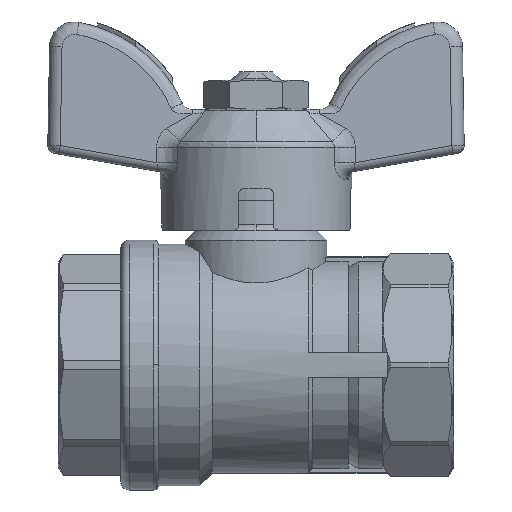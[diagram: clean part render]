
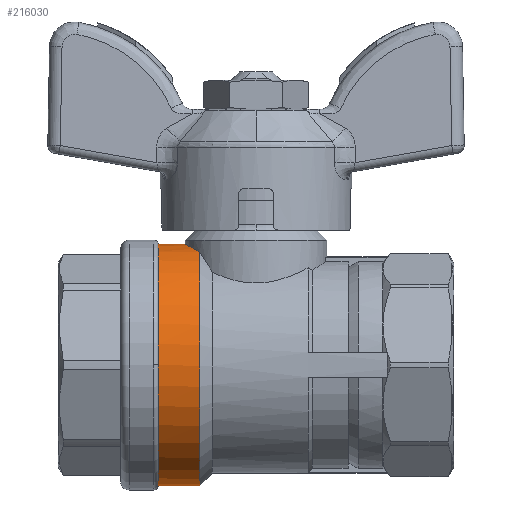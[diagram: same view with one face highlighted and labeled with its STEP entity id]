
A CAD part, top view. The second image highlights one B-rep face of the part: STEP entity #216030.
In plain terms, the highlighted cylindrical face has radius 14.5 mm (diameter 29 mm), a partial arc.
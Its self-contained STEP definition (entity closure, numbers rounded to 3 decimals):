
#6660=CARTESIAN_POINT('',(11.75,0.,-14.5));
#6670=VERTEX_POINT('',#6660);
#6700=CARTESIAN_POINT('',(11.75,0.,0.));
#6710=DIRECTION('',(-1.,0.,0.));
#6720=DIRECTION('',(0.,0.,1.));
#6730=AXIS2_PLACEMENT_3D('',#6700,#6710,#6720);
#6740=CIRCLE('',#6730,14.5);
#6750=CARTESIAN_POINT('',(11.75,-14.5,
0.));
#6760=VERTEX_POINT('',#6750);
#6770=EDGE_CURVE('',#6670,#6760,#6740,.T.);
#14440=CARTESIAN_POINT('',(0.,7.499,0.));
#14450=DIRECTION('',(0.,-1.,0.));
#14460=DIRECTION('',(-1.,0.,0.));
#14470=AXIS2_PLACEMENT_3D('',#14440,#14450,#14460);
#14480=CYLINDRICAL_SURFACE('',#14470,8.5);
#21880=CARTESIAN_POINT('',(6.75,0.,0.));
#21890=DIRECTION('',(1.,0.,0.));
#21900=DIRECTION('',(0.,-1.,0.));
#21910=AXIS2_PLACEMENT_3D('',#21880,#21890,#21900);
#21920=CIRCLE('',#21910,14.5);
#21950=CARTESIAN_POINT('',(6.75,-14.5,0.));
#21960=VERTEX_POINT('',#21950);
#82190=CARTESIAN_POINT('',(8.5,14.5,
0.));
#82200=VERTEX_POINT('',#82190);
#82230=CARTESIAN_POINT('',(9.25,0.,0.));
#82240=DIRECTION('',(-1.,0.,0.));
#82250=DIRECTION('',(0.,1.,0.));
#82260=AXIS2_PLACEMENT_3D('',#82230,#82240,#82250);
#82270=CYLINDRICAL_SURFACE('',#82260,14.5);
#215240=CARTESIAN_POINT('',(9.25,-14.5,
0.));
#215250=DIRECTION('',(-1.,0.,0.));
#215260=VECTOR('',#215250,1.);
#215270=LINE('',#215240,#215260);
#215280=EDGE_CURVE('',#6760,#21960,#215270,.T.);
#215290=ORIENTED_EDGE('',*,*,#215280,.T.);
#215300=ORIENTED_EDGE('',*,*,#6770,.T.);
#215310=CARTESIAN_POINT('',(11.75,14.5,0.));
#215320=VERTEX_POINT('',#215310);
#215330=EDGE_CURVE('',#215320,#6670,#6740,.T.);
#215340=ORIENTED_EDGE('',*,*,#215330,.T.);
#215350=CARTESIAN_POINT('',(9.25,14.5,0.));
#215360=DIRECTION('',(-1.,0.,0.));
#215370=VECTOR('',#215360,1.);
#215380=LINE('',#215350,#215370);
#215390=EDGE_CURVE('',#215320,#82200,#215380,.T.);
#215400=ORIENTED_EDGE('',*,*,#215390,.F.);
#215410=CARTESIAN_POINT('',(6.75,13.549,
-5.166));
#215420=CARTESIAN_POINT('',(6.819,13.583,
-5.076));
#215430=CARTESIAN_POINT('',(6.886,13.617,
-4.985));
#215440=CARTESIAN_POINT('',(6.951,13.65,
-4.892));
#215450=CARTESIAN_POINT('',(7.016,13.683,
-4.799));
#215460=CARTESIAN_POINT('',(7.08,13.716,
-4.705));
#215470=CARTESIAN_POINT('',(7.142,13.748,
-4.609));
#215480=CARTESIAN_POINT('',(7.204,13.78,
-4.514));
#215490=CARTESIAN_POINT('',(7.264,13.811,
-4.416));
#215500=CARTESIAN_POINT('',(7.322,13.842,
-4.318));
#215510=CARTESIAN_POINT('',(7.38,13.873,
-4.219));
#215520=CARTESIAN_POINT('',(7.436,13.903,
-4.12));
#215530=CARTESIAN_POINT('',(7.49,13.932,
-4.018));
#215540=CARTESIAN_POINT('',(7.544,13.961,
-3.917));
#215550=CARTESIAN_POINT('',(7.597,13.99,
-3.815));
#215560=CARTESIAN_POINT('',(7.647,14.017,
-3.712));
#215570=CARTESIAN_POINT('',(7.697,14.044,
-3.608));
#215580=CARTESIAN_POINT('',(7.745,14.071,
-3.504));
#215590=CARTESIAN_POINT('',(7.791,14.096,
-3.398));
#215600=CARTESIAN_POINT('',(7.837,14.122,
-3.293));
#215610=CARTESIAN_POINT('',(7.881,14.146,
-3.186));
#215620=CARTESIAN_POINT('',(7.923,14.169,
-3.079));
#215630=CARTESIAN_POINT('',(7.944,14.181,
-3.025));
#215640=CARTESIAN_POINT('',(7.964,14.192,
-2.971));
#215650=CARTESIAN_POINT('',(7.984,14.204,
-2.917));
#215660=CARTESIAN_POINT('',(8.004,14.215,
-2.863));
#215670=CARTESIAN_POINT('',(8.023,14.226,
-2.808));
#215680=CARTESIAN_POINT('',(8.042,14.236,
-2.754));
#215690=CARTESIAN_POINT('',(8.079,14.257,
-2.644));
#215700=CARTESIAN_POINT('',(8.114,14.277,
-2.534));
#215710=CARTESIAN_POINT('',(8.148,14.296,
-2.422));
#215720=CARTESIAN_POINT('',(8.181,14.315,
-2.311));
#215730=CARTESIAN_POINT('',(8.211,14.333,
-2.199));
#215740=CARTESIAN_POINT('',(8.24,14.349,
-2.086));
#215750=CARTESIAN_POINT('',(8.269,14.366,
-1.973));
#215760=CARTESIAN_POINT('',(8.295,14.381,
-1.859));
#215770=CARTESIAN_POINT('',(8.319,14.395,
-1.745));
#215780=CARTESIAN_POINT('',(8.343,14.408,
-1.631));
#215790=CARTESIAN_POINT('',(8.364,14.421,
-1.516));
#215800=CARTESIAN_POINT('',(8.384,14.432,
-1.401));
#215810=CARTESIAN_POINT('',(8.403,14.443,
-1.286));
#215820=CARTESIAN_POINT('',(8.42,14.453,
-1.17));
#215830=CARTESIAN_POINT('',(8.434,14.462,
-1.053));
#215840=CARTESIAN_POINT('',(8.449,14.47,
-0.937));
#215850=CARTESIAN_POINT('',(8.461,14.477,
-0.82));
#215860=CARTESIAN_POINT('',(8.471,14.483,
-0.704));
#215870=CARTESIAN_POINT('',(8.481,14.489,
-0.587));
#215880=CARTESIAN_POINT('',(8.488,14.493,
-0.469));
#215890=CARTESIAN_POINT('',(8.493,14.496,
-0.352));
#215900=CARTESIAN_POINT('',(8.498,14.499,
-0.235));
#215910=CARTESIAN_POINT('',(8.5,14.5,
-0.117));
#215920=CARTESIAN_POINT('',(8.5,14.5,
0.));
#215930=B_SPLINE_CURVE_WITH_KNOTS('',3,(#215410,#215420,#215430,#215440,
#215450,#215460,#215470,#215480,#215490,#215500,#215510,#215520,#215530,
#215540,#215550,#215560,#215570,#215580,#215590,#215600,#215610,#215620,
#215630,#215640,#215650,#215660,#215670,#215680,#215690,#215700,#215710,
#215720,#215730,#215740,#215750,#215760,#215770,#215780,#215790,#215800,
#215810,#215820,#215830,#215840,#215850,#215860,#215870,#215880,#215890,
#215900,#215910,#215920),.UNSPECIFIED.,.F.,.F.,(4,3,3,3,3,3,3,3,3,3,3,3,
3,3,3,3,3,4),(0.,0.354,0.709,1.065,
1.42,1.775,2.129,2.482,
2.658,2.835,3.187,3.54,
3.893,4.246,4.598,4.95,
5.303,5.655),.UNSPECIFIED.);
#215940=SURFACE_CURVE('',#215930,(#14480,#82270),.CURVE_3D.);
#215950=CARTESIAN_POINT('',(6.75,13.549,
-5.166));
#215960=VERTEX_POINT('',#215950);
#215970=EDGE_CURVE('',#215960,#82200,#215940,.T.);
#215980=ORIENTED_EDGE('',*,*,#215970,.T.);
#215990=EDGE_CURVE('',#21960,#215960,#21920,.T.);
#216000=ORIENTED_EDGE('',*,*,#215990,.T.);
#216010=EDGE_LOOP('',(#216000,#215980,#215400,#215340,#215300,#215290));
#216020=FACE_OUTER_BOUND('',#216010,.T.);
#216030=ADVANCED_FACE('',(#216020),#82270,.T.);
